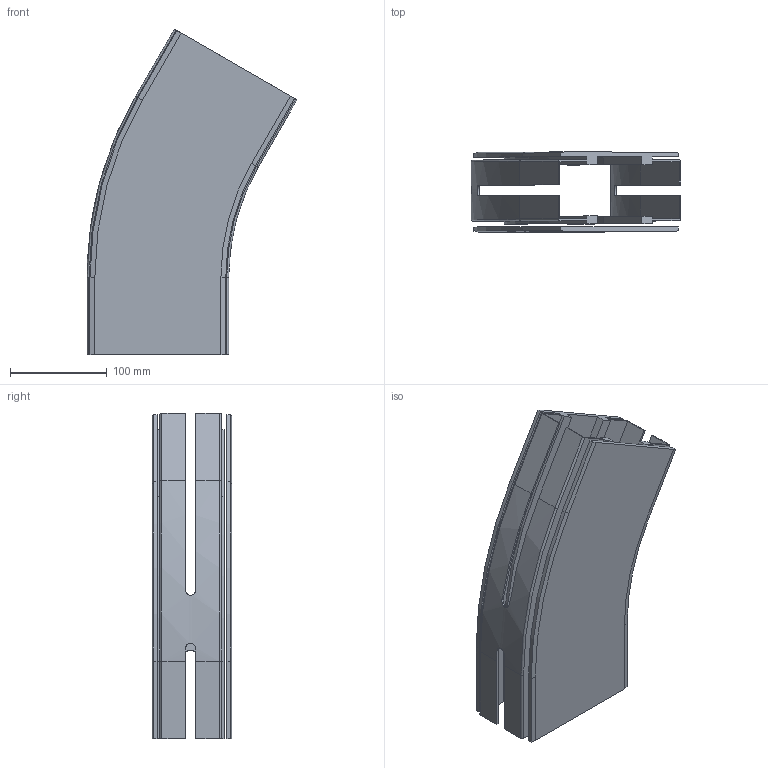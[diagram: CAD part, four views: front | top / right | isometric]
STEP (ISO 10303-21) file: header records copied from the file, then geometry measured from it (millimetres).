
FILE_DESCRIPTION(/* description */ ('GLIDKURVA SERIE 540'),/* implementation_level */ '2;1');
FILE_NAME(/* name */ '540-5375+140-2000-01.stp',/* time_stamp */ '2022-09-21T08:10:33+02:00',/* author */ ('Mathias.Dore'),/* organization */ ('CARRYLINE'),/* preprocessor_version */ 'ST-DEVELOPER v19.2',/* originating_system */ 'Autodesk Inventor 2023',/* authorisation */ '');
FILE_SCHEMA (('AUTOMOTIVE_DESIGN { 1 0 10303 214 3 1 1 }'));
Length unit declared in the file: millimetre
Products named in the file (1): 540-5375+140-2000-01
Bounding box: 216.41 x 82 x 335.78 mm (x, y, z)
Volume: 715469.8 mm3; surface area: 371051.1 mm2
Topology: 2 solids, 2 shells, 167 faces, 458 edges, 300 vertices
Faces by surface type: plane 113, cylinder 28, bspline 18, cone 4, torus 4
Entity records: 5649 total; most frequent: CARTESIAN_POINT 1356, ORIENTED_EDGE 916, DIRECTION 802, EDGE_CURVE 458, LINE 342, VECTOR 342, VERTEX_POINT 300, AXIS2_PLACEMENT_3D 230
